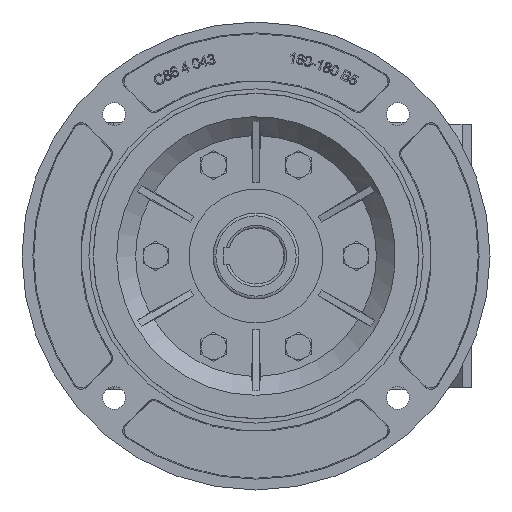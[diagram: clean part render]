
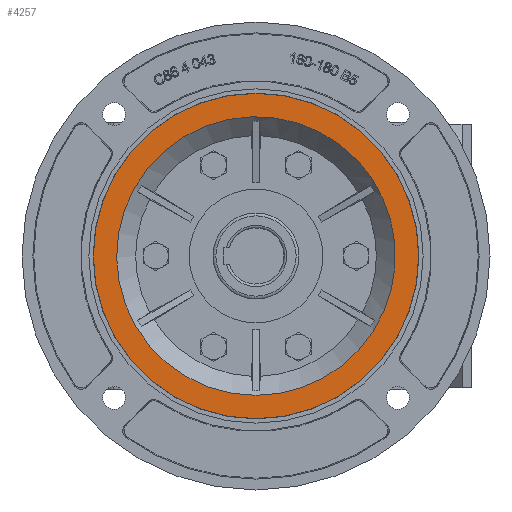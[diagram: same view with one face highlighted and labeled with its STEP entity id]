
A CAD part, left-side view. The second image highlights one B-rep face of the part: STEP entity #4257.
In plain terms, the highlighted planar face has unit normal (-1, 0, 0).
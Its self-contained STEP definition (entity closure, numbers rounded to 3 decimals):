
#4257 = ADVANCED_FACE( '', ( #9702, #9703 ), #9704, .F. );
#9702 = FACE_OUTER_BOUND( '', #23798, .T. );
#9703 = FACE_BOUND( '', #23799, .T. );
#9704 = PLANE( '', #23800 );
#23798 = EDGE_LOOP( '', ( #42388 ) );
#23799 = EDGE_LOOP( '', ( #42389 ) );
#23800 = AXIS2_PLACEMENT_3D( '', #42390, #42391, #42392 );
#42388 = ORIENTED_EDGE( '', *, *, #52323, .F. );
#42389 = ORIENTED_EDGE( '', *, *, #52136, .T. );
#42390 = CARTESIAN_POINT( '', ( -388.001, -18.5, 121.669 ) );
#42391 = DIRECTION( '', ( 1., 0., 0. ) );
#42392 = DIRECTION( '', ( 0., 0., -1. ) );
#52136 = EDGE_CURVE( '', #60217, #60217, #60218, .T. );
#52323 = EDGE_CURVE( '', #60508, #60508, #60509, .T. );
#60217 = VERTEX_POINT( '', #75907 );
#60218 = CIRCLE( '', #75908, 104.2 );
#60508 = VERTEX_POINT( '', #76661 );
#60509 = CIRCLE( '', #76662, 121.669 );
#75907 = CARTESIAN_POINT( '', ( -388.001, -18.5, -104.2 ) );
#75908 = AXIS2_PLACEMENT_3D( '', #92613, #92614, #92615 );
#76661 = CARTESIAN_POINT( '', ( -388.001, -18.5, -121.669 ) );
#76662 = AXIS2_PLACEMENT_3D( '', #92804, #92805, #92806 );
#92613 = CARTESIAN_POINT( '', ( -388.001, -18.5, 0. ) );
#92614 = DIRECTION( '', ( 1., 0., 0. ) );
#92615 = DIRECTION( '', ( 0., 0., -1. ) );
#92804 = CARTESIAN_POINT( '', ( -388.001, -18.5, 0. ) );
#92805 = DIRECTION( '', ( 1., 0., 0. ) );
#92806 = DIRECTION( '', ( 0., 0., -1. ) );
